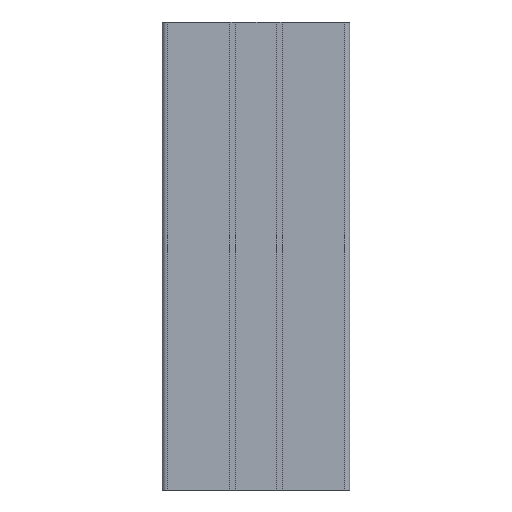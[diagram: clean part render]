
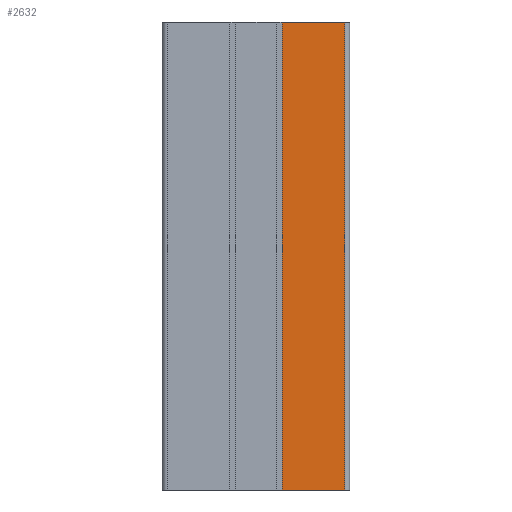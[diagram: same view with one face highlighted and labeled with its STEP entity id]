
A CAD part, front view. The second image highlights one B-rep face of the part: STEP entity #2632.
In plain terms, the highlighted planar face has unit normal (0, -1, 0).
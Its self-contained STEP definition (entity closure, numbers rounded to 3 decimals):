
#86=PLANE('',#2816);
#214=FACE_OUTER_BOUND('',#344,.T.);
#344=EDGE_LOOP('',(#2097,#2098,#2099,#2100));
#606=LINE('',#4090,#934);
#607=LINE('',#4093,#935);
#608=LINE('',#4095,#936);
#609=LINE('',#4096,#937);
#934=VECTOR('',#3352,100.);
#935=VECTOR('',#3355,13.4);
#936=VECTOR('',#3356,13.4);
#937=VECTOR('',#3357,100.);
#1283=VERTEX_POINT('',#4086);
#1284=VERTEX_POINT('',#4088);
#1285=VERTEX_POINT('',#4092);
#1286=VERTEX_POINT('',#4094);
#1626=EDGE_CURVE('',#1283,#1284,#606,.T.);
#1627=EDGE_CURVE('',#1285,#1283,#607,.T.);
#1628=EDGE_CURVE('',#1286,#1284,#608,.T.);
#1629=EDGE_CURVE('',#1285,#1286,#609,.T.);
#2097=ORIENTED_EDGE('',*,*,#1627,.T.);
#2098=ORIENTED_EDGE('',*,*,#1626,.T.);
#2099=ORIENTED_EDGE('',*,*,#1628,.F.);
#2100=ORIENTED_EDGE('',*,*,#1629,.F.);
#2632=ADVANCED_FACE('',(#214),#86,.T.);
#2816=AXIS2_PLACEMENT_3D('',#4091,#3353,#3354);
#3352=DIRECTION('',(0.,0.,1.));
#3353=DIRECTION('center_axis',(0.,-1.,0.));
#3354=DIRECTION('ref_axis',(1.,0.,0.));
#3355=DIRECTION('',(1.,0.,0.));
#3356=DIRECTION('',(1.,0.,0.));
#3357=DIRECTION('',(0.,0.,1.));
#4086=CARTESIAN_POINT('',(39.263,0.303,0.));
#4088=CARTESIAN_POINT('',(39.263,0.303,100.));
#4090=CARTESIAN_POINT('',(39.263,0.303,0.));
#4091=CARTESIAN_POINT('Origin',(25.863,0.303,0.));
#4092=CARTESIAN_POINT('',(25.863,0.303,0.));
#4093=CARTESIAN_POINT('',(25.863,0.303,0.));
#4094=CARTESIAN_POINT('',(25.863,0.303,100.));
#4095=CARTESIAN_POINT('',(25.863,0.303,100.));
#4096=CARTESIAN_POINT('',(25.863,0.303,0.));
